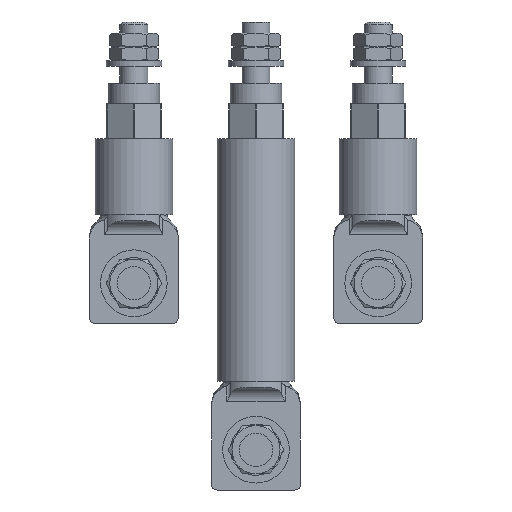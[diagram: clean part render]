
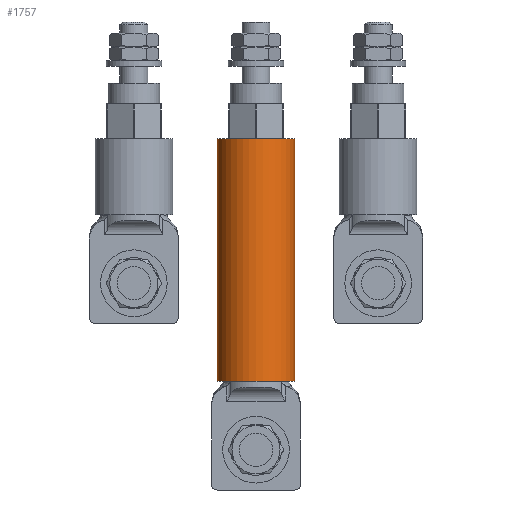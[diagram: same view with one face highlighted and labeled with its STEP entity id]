
A CAD part, left-side view. The second image highlights one B-rep face of the part: STEP entity #1757.
In plain terms, the highlighted cylindrical face has radius 14 mm (diameter 28 mm), a full revolution.
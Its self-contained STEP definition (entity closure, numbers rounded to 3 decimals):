
#1757=ADVANCED_FACE('',(#2200,#2201),#2066,.T.);
#2066=CYLINDRICAL_SURFACE('',#6730,14.);
#2200=FACE_BOUND('',#2532,.T.);
#2201=FACE_BOUND('',#2533,.T.);
#2532=EDGE_LOOP('',(#3537));
#2533=EDGE_LOOP('',(#3538));
#3537=ORIENTED_EDGE('',*,*,#5608,.T.);
#3538=ORIENTED_EDGE('',*,*,#5609,.F.);
#4903=VERTEX_POINT('',#10089);
#4904=VERTEX_POINT('',#10091);
#5608=EDGE_CURVE('',#4903,#4903,#6283,.T.);
#5609=EDGE_CURVE('',#4904,#4904,#6284,.T.);
#6283=CIRCLE('',#6728,14.);
#6284=CIRCLE('',#6729,14.);
#6728=AXIS2_PLACEMENT_3D('',#10088,#7834,#7835);
#6729=AXIS2_PLACEMENT_3D('',#10090,#7836,#7837);
#6730=AXIS2_PLACEMENT_3D('',#10092,#7838,#7839);
#7834=DIRECTION('',(0.,0.,1.));
#7835=DIRECTION('',(-0.5,-0.866,0.));
#7836=DIRECTION('',(0.,0.,1.));
#7837=DIRECTION('',(-0.5,-0.866,0.));
#7838=DIRECTION('',(0.,0.,1.));
#7839=DIRECTION('',(-0.866,0.5,0.));
#10088=CARTESIAN_POINT('',(242.5,114.,-87.5));
#10089=CARTESIAN_POINT('',(235.5,101.876,-87.5));
#10090=CARTESIAN_POINT('',(242.5,114.,0.));
#10091=CARTESIAN_POINT('',(235.5,101.876,0.));
#10092=CARTESIAN_POINT('',(242.5,114.,-87.5));
